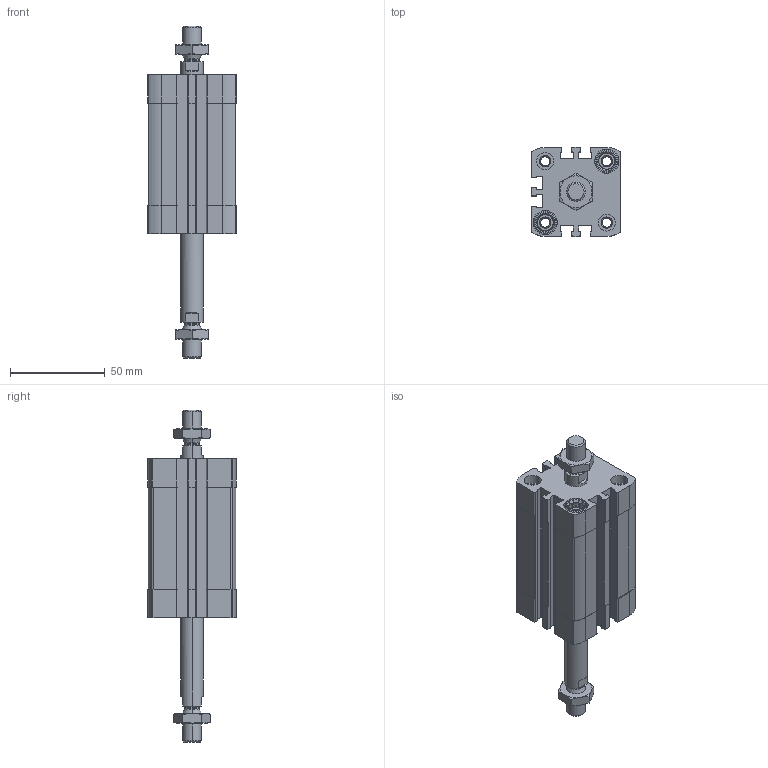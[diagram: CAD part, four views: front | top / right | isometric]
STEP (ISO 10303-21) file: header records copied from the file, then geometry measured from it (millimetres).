
FILE_DESCRIPTION (( 'STEP AP203' ), '1' );
FILE_NAME ('CCN32-40-P.STEP', '2020-06-22T18:47:32', ( '' ), ( '' ), 'SwSTEP 2.0', 'SolidWorks 2019', '' );
FILE_SCHEMA (( 'CONFIG_CONTROL_DESIGN' ));
Length unit declared in the file: millimetre
Products named in the file (1): CCN32-40-P
Bounding box: 47 x 47 x 175.5 mm (x, y, z)
Volume: 134687.9 mm3; surface area: 52013.9 mm2
Topology: 4 solids, 4 shells, 536 faces, 1416 edges, 920 vertices
Faces by surface type: plane 288, cylinder 180, cone 60, torus 8
Entity records: 17371 total; most frequent: CARTESIAN_POINT 3741, DIRECTION 2898, ORIENTED_EDGE 2832, EDGE_CURVE 1416, AXIS2_PLACEMENT_3D 1069, VERTEX_POINT 920, LINE 760, VECTOR 760
